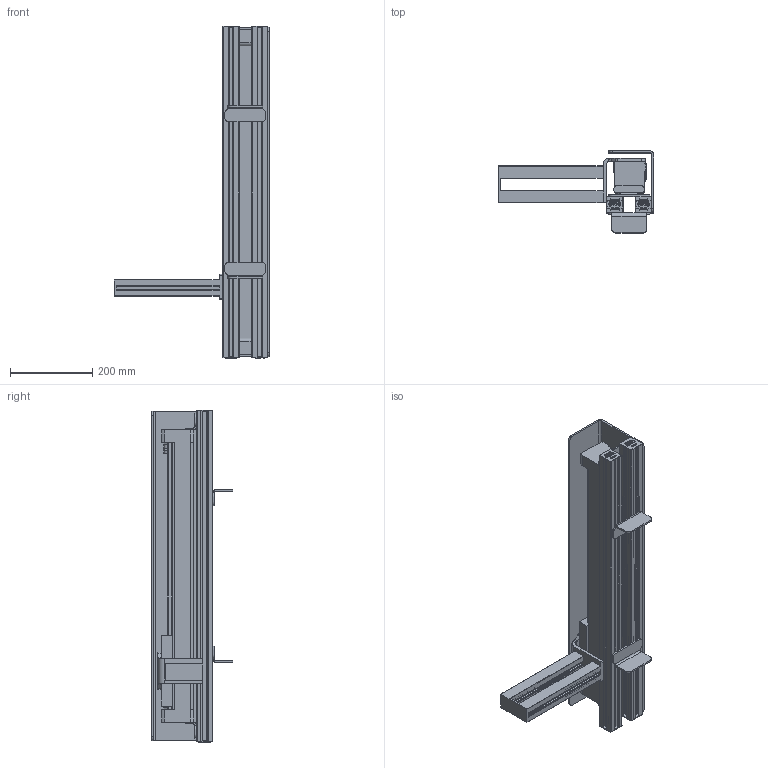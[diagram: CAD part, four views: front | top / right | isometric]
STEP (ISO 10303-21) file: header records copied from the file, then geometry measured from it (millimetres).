
FILE_DESCRIPTION((''),'2;1');
FILE_NAME('C:\Vault_Working_Folder\Designs\Inventor\Lättviktsmodeller\Klart\Midi\ITPP 50-02-420.stp','2012-11-13T13:43:54',('martin.samuelsson'),(''),'Autodesk Inventor 2013','Autodesk Inventor 2013','');
FILE_SCHEMA(('AUTOMOTIVE_DESIGN { 1 0 10303 214 1 1 1 1 }'));
Length unit declared in the file: millimetre
Products named in the file (1): ITPP 50-02-420
Bounding box: 378.57 x 198.78 x 806.4 mm (x, y, z)
Volume: 5609369 mm3; surface area: 1343902.9 mm2
Topology: 1 solids, 1 shells, 1434 faces, 3964 edges, 2566 vertices
Faces by surface type: plane 914, bspline 282, cylinder 170, cone 68
Full cylindrical faces by diameter (mm): 17 x4
Entity records: 50953 total; most frequent: CARTESIAN_POINT 14879, ORIENTED_EDGE 7872, DIRECTION 6006, EDGE_CURVE 3936, VECTOR 2852, LINE 2852, VERTEX_POINT 2562, AXIS2_PLACEMENT_3D 1577
